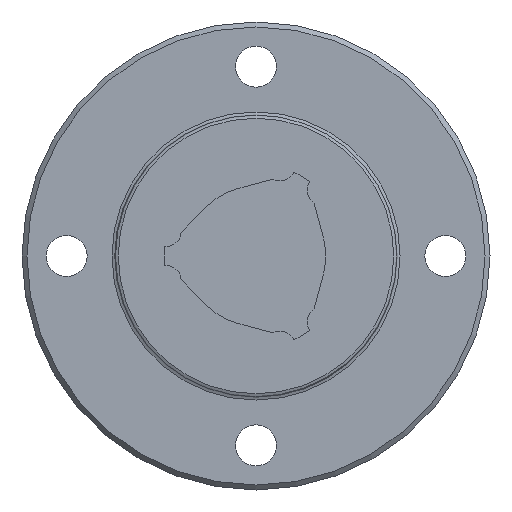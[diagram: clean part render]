
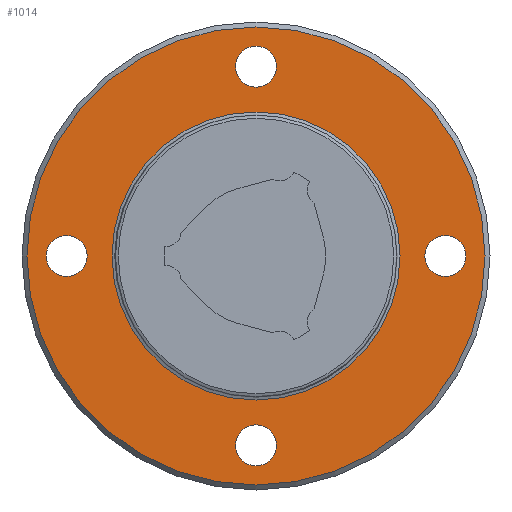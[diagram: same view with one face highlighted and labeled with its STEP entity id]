
A CAD part, left-side view. The second image highlights one B-rep face of the part: STEP entity #1014.
In plain terms, the highlighted planar face has unit normal (-1, 0, 0).
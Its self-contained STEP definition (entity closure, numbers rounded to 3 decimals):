
#49=PLANE('',#1146);
#319=ORIENTED_EDGE('',*,*,#534,.F.);
#320=ORIENTED_EDGE('',*,*,#535,.T.);
#321=ORIENTED_EDGE('',*,*,#536,.T.);
#322=ORIENTED_EDGE('',*,*,#537,.T.);
#323=ORIENTED_EDGE('',*,*,#538,.T.);
#324=ORIENTED_EDGE('',*,*,#533,.T.);
#533=EDGE_CURVE('',#651,#651,#730,.T.);
#534=EDGE_CURVE('',#652,#652,#731,.T.);
#535=EDGE_CURVE('',#653,#653,#732,.T.);
#536=EDGE_CURVE('',#654,#654,#733,.T.);
#537=EDGE_CURVE('',#655,#655,#734,.T.);
#538=EDGE_CURVE('',#656,#656,#735,.T.);
#651=VERTEX_POINT('',#1760);
#652=VERTEX_POINT('',#1763);
#653=VERTEX_POINT('',#1765);
#654=VERTEX_POINT('',#1767);
#655=VERTEX_POINT('',#1769);
#656=VERTEX_POINT('',#1771);
#730=CIRCLE('',#1145,23.2);
#731=CIRCLE('',#1147,36.9);
#732=CIRCLE('',#1148,3.3);
#733=CIRCLE('',#1149,3.3);
#734=CIRCLE('',#1150,3.3);
#735=CIRCLE('',#1151,3.3);
#795=EDGE_LOOP('',(#319));
#796=EDGE_LOOP('',(#320));
#797=EDGE_LOOP('',(#321));
#798=EDGE_LOOP('',(#322));
#799=EDGE_LOOP('',(#323));
#800=EDGE_LOOP('',(#324));
#891=FACE_BOUND('',#795,.T.);
#892=FACE_BOUND('',#796,.T.);
#893=FACE_BOUND('',#797,.T.);
#894=FACE_BOUND('',#798,.T.);
#895=FACE_BOUND('',#799,.T.);
#896=FACE_BOUND('',#800,.T.);
#1014=ADVANCED_FACE('',(#891,#892,#893,#894,#895,#896),#49,.F.);
#1145=AXIS2_PLACEMENT_3D('',#1759,#1388,#1389);
#1146=AXIS2_PLACEMENT_3D('',#1761,#1390,#1391);
#1147=AXIS2_PLACEMENT_3D('',#1762,#1392,#1393);
#1148=AXIS2_PLACEMENT_3D('',#1764,#1394,#1395);
#1149=AXIS2_PLACEMENT_3D('',#1766,#1396,#1397);
#1150=AXIS2_PLACEMENT_3D('',#1768,#1398,#1399);
#1151=AXIS2_PLACEMENT_3D('',#1770,#1400,#1401);
#1388=DIRECTION('',(1.,0.,0.));
#1389=DIRECTION('',(0.,0.,-1.));
#1390=DIRECTION('',(1.,0.,0.));
#1391=DIRECTION('',(0.,0.,-1.));
#1392=DIRECTION('',(1.,0.,0.));
#1393=DIRECTION('',(0.,0.,-1.));
#1394=DIRECTION('',(1.,0.,0.));
#1395=DIRECTION('',(0.,0.,-1.));
#1396=DIRECTION('',(1.,0.,0.));
#1397=DIRECTION('',(0.,0.,-1.));
#1398=DIRECTION('',(1.,0.,0.));
#1399=DIRECTION('',(0.,0.,-1.));
#1400=DIRECTION('',(1.,0.,0.));
#1401=DIRECTION('',(0.,0.,-1.));
#1759=CARTESIAN_POINT('',(32.,0.,0.));
#1760=CARTESIAN_POINT('',(32.,0.,-23.2));
#1761=CARTESIAN_POINT('',(32.,23.2,0.));
#1762=CARTESIAN_POINT('',(32.,0.,0.));
#1763=CARTESIAN_POINT('',(32.,0.,-36.9));
#1764=CARTESIAN_POINT('',(32.,30.5,0.));
#1765=CARTESIAN_POINT('',(32.,30.5,-3.3));
#1766=CARTESIAN_POINT('',(32.,0.,-30.5));
#1767=CARTESIAN_POINT('',(32.,0.,-33.8));
#1768=CARTESIAN_POINT('',(32.,0.,30.5));
#1769=CARTESIAN_POINT('',(32.,0.,27.2));
#1770=CARTESIAN_POINT('',(32.,-30.5,0.));
#1771=CARTESIAN_POINT('',(32.,-30.5,-3.3));
